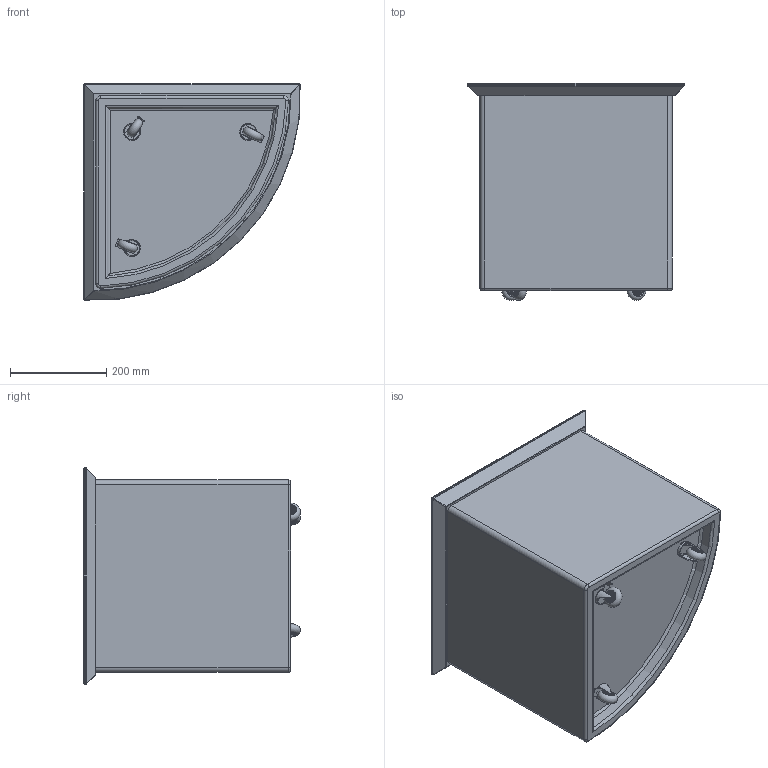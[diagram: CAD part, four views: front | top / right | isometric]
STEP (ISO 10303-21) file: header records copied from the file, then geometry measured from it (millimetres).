
FILE_DESCRIPTION(/* description */ (''),/* implementation_level */ '2;1');
FILE_NAME(/* name */ 'SLICE SINGLE.step',/* time_stamp */ '2024-10-09T16:06:32+13:00',/* author */ (''),/* organization */ (''),/* preprocessor_version */ 'ST-DEVELOPER v20',/* originating_system */ 'Autodesk Translation Framework v13.20.0.188',/* authorisation */ '');
FILE_SCHEMA (('AUTOMOTIVE_DESIGN { 1 0 10303 214 3 1 1 }'));
Length unit declared in the file: millimetre
Products named in the file (8): FusionComponent; CLEAR CASTOR; caster throw v1; CLEAR CASTOR_1; caster throw v1_1; CLEAR CASTOR_2; caster throw v1_2; rigid_caster_mfae_210_gel_ct
Assembly tree (9 placements, depth 4):
  FusionComponent
    CLEAR CASTOR
      caster throw v1
        rigid_caster_mfae_210_gel_ct
    CLEAR CASTOR_1
      caster throw v1_1
        rigid_caster_mfae_210_gel_ct
    CLEAR CASTOR_2
      caster throw v1_2
        rigid_caster_mfae_210_gel_ct
Bounding box: 449.37 x 450.3 x 449.37 mm (x, y, z)
Volume: 51939695.5 mm3; surface area: 1235474.7 mm2
Topology: 11 solids, 11 shells, 491 faces, 1461 edges, 948 vertices
Faces by surface type: cylinder 211, plane 190, torus 51, cone 25, sphere 9, bspline 5
Full cylindrical faces by diameter (mm): 5.5 x3, 12.5 x3, 31.667 x3, 35 x3
Entity records: 11125 total; most frequent: CARTESIAN_POINT 3738, ORIENTED_EDGE 1558, DIRECTION 1526, EDGE_CURVE 779, AXIS2_PLACEMENT_3D 611, VERTEX_POINT 498, LINE 304, VECTOR 304
